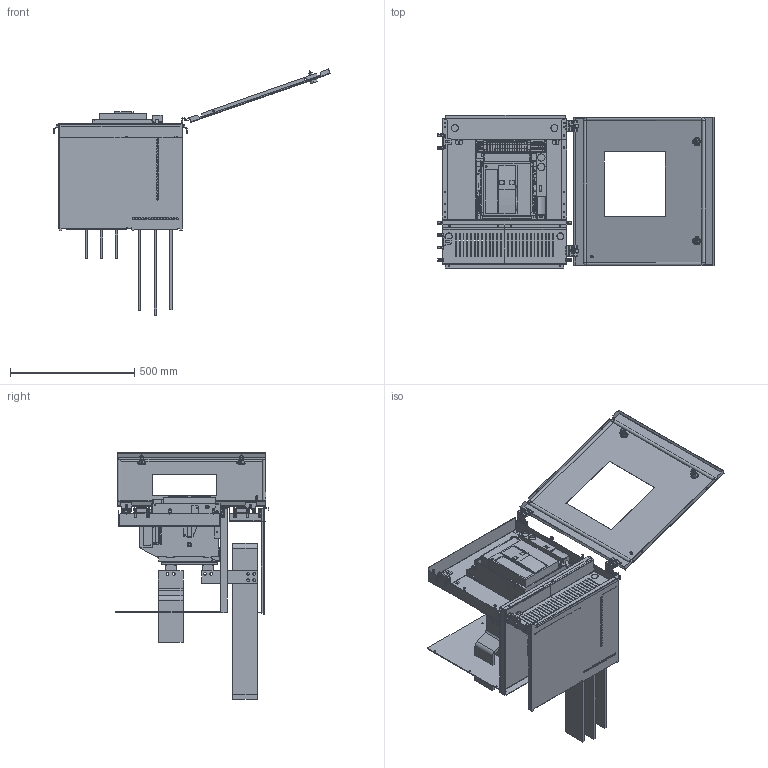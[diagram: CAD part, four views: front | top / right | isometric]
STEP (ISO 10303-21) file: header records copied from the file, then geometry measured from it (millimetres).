
FILE_DESCRIPTION(('CAx-IF Rec.Pracs.---Model Styling and Organization---1.2---2011-12-15','CAx-IF Rec.Pracs.---Geometric and Assembly Validation Properties---4.1---2014-06-16','CAx-IF Rec.Pracs.---PMI Polyline Presentation---2.0---2013-05-24'),'2;1');
FILE_NAME('R5M212IB3H61521R.stp','2021-05-05T12:47:01+03:00',(''),(''),'STEP Interface 4.4 by CT CoreTechnologie','3D_Evolution4.4 by CT CoreTechnologie','');
FILE_SCHEMA(('AUTOMOTIVE_DESIGN { 1 0 10303 214 1 1 1 1 }'));
Length unit declared in the file: millimetre
Products named in the file (68): R5M212IB3H61521R(äâóñòîðîííèé); Masterpact NT06-NT16 3P W; Chassis withdrawable device for Masterpact NT06 to NT16 3P; FLASQUE_CHASSIS_DROITE; PLAQUE_SUPPORT_BAS_3P; COUVERCLE_3P_ASM; SUPPORT_TERMINAL_CHASSIS; TERMINAL_CHASSIS; PIECE_COUVERCLE_SUPERIEUR_3P; PIECE_COUVERCLE_PRINCIPALE_3P; SUPPORT_BAS_COVER_3P; PLAQUE_SUPPORT_TERMINAL_3P; TIGE_SUPERIEUR_3P; FACE_AVANT_CHASSIS; CYLINDRE; EMBOUT_SUPPORT_BAS_GAUCHE; TIGE_CENTRALE; EMBOUT_SUPPORT_BAS_DROITE; COQUE_ARRIERE_CHASSIS_3P; FLASQUE_MECA_ASM; SUPPORT_RAIL; FLASQUE_INTERMEDIAIRE; PLAQUE_FIX_MUR_DROITE; PLAQUE_FIX_MUR_DROITE_2; RAIL; MUR_GAUCHE_ASM; FLASQUE_CHASSIS_GAUCHE; PLAQUE_FIX_MUR_GAUCHE; RONDELLE_RAIL_ASM(1); RONDELLE_PRINCIPALE; RONDELLE_RAIL_ASM(2); EMBOUT_COUVERCLE; SUPPORT_FLASQUE; Rear vertical connection Masterpact NT W(1); 0444151601_S_1; Rear vertical connection Masterpact NT W(2); Basic circuit breaker Masterpact NT06 to NT16 3P; AC00C485; SHNDT1W_-00; RB.1228.00.00.0_-00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
Assembly tree (105 placements, depth 6):
  R5M212IB3H61521R(äâóñòîðîííèé)
    Masterpact NT06-NT16 3P W
      Chassis withdrawable device for Masterpact NT06 to NT16 3P
        FLASQUE_CHASSIS_DROITE
        PLAQUE_SUPPORT_BAS_3P
        COUVERCLE_3P_ASM
          SUPPORT_TERMINAL_CHASSIS
          TERMINAL_CHASSIS
          PIECE_COUVERCLE_SUPERIEUR_3P
          PIECE_COUVERCLE_PRINCIPALE_3P
          SUPPORT_BAS_COVER_3P
        PLAQUE_SUPPORT_TERMINAL_3P
        TIGE_SUPERIEUR_3P
        FACE_AVANT_CHASSIS
        CYLINDRE
        EMBOUT_SUPPORT_BAS_GAUCHE
        TIGE_CENTRALE
        EMBOUT_SUPPORT_BAS_DROITE
        COQUE_ARRIERE_CHASSIS_3P
        FLASQUE_MECA_ASM
          SUPPORT_RAIL
          FLASQUE_INTERMEDIAIRE
          PLAQUE_FIX_MUR_DROITE
          PLAQUE_FIX_MUR_DROITE_2
          RAIL
        MUR_GAUCHE_ASM
          FLASQUE_CHASSIS_GAUCHE
          PLAQUE_FIX_MUR_GAUCHE
          RONDELLE_RAIL_ASM(1)
            RONDELLE_PRINCIPALE
          RONDELLE_RAIL_ASM(2)
            RONDELLE_PRINCIPALE
          RAIL
          SUPPORT_RAIL
          EMBOUT_COUVERCLE
        SUPPORT_FLASQUE
      Rear vertical connection Masterpact NT W(1)
        0444151601_S_1  x3
      Rear vertical connection Masterpact NT W(2)
        0444151601_S_1  x3
      Basic circuit breaker Masterpact NT06 to NT16 3P
    AC00C485  x12
    SHNDT1W_-00
    RB.1228.00.00.0_-00  x2
    M6 x 16-DIN 7991 ISR_thread  x10
    SHNDT2W_-00
    RB.1231.00.00.0_-01
    SHNDT3W_-00
    RB.1229.00.00.0_-00
    SHNDDR1W_-00
    RB.1383.00.00.0_-00 (NT W)
    SHNDDR2W_-00
    RB.1233.00.00.0_-00
    SHNDDR3W_-00
    RB.1227.00.00.0_-00
    RB.1227.00.00.0_-01
    RB.1226.00.00.0_-00
    SHNDO2_-00  x3
    SHNDO1_-00  x3
    RB.0116.00.00.3_-00  x2
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Bounding box: 1110.83 x 617 x 988.16 mm (x, y, z)
Surface area: 5401221.8 mm2 (no closed solid volume)
Topology: 0 solids, 121 shells, 4383 faces, 11660 edges, 7500 vertices
Faces by surface type: plane 2651, cylinder 1372, bspline 360
Entity records: 94651 total; most frequent: CARTESIAN_POINT 19354, ORIENTED_EDGE 15104, DIRECTION 14405, EDGE_CURVE 7555, VECTOR 6007, LINE 6007, VERTEX_POINT 4964, AXIS2_PLACEMENT_3D 4199
